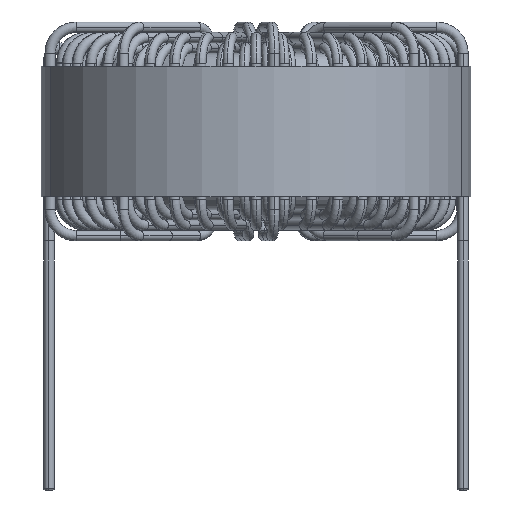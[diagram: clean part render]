
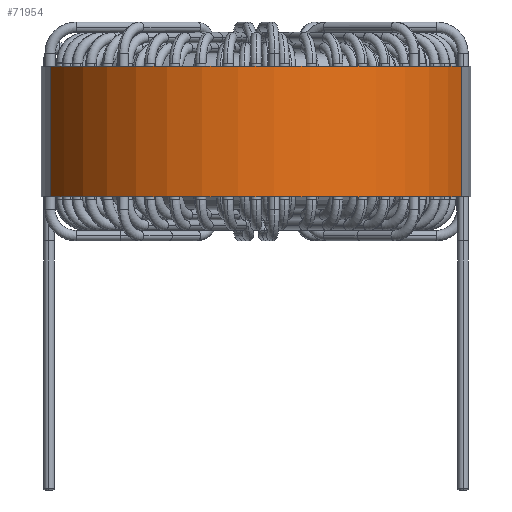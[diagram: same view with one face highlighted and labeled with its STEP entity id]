
A CAD part, front view. The second image highlights one B-rep face of the part: STEP entity #71954.
In plain terms, the highlighted cylindrical face has radius 16.45 mm (diameter 32.9 mm), a partial arc.
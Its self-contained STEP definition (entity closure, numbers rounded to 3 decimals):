
#2198 = ORIENTED_EDGE ( 'NONE', *, *, #70204, .F. ) ;
#6818 = AXIS2_PLACEMENT_3D ( 'NONE', #53440, #47550, #41092 ) ;
#8090 = VERTEX_POINT ( 'NONE', #35822 ) ;
#9342 = LINE ( 'NONE', #13408, #69402 ) ;
#11466 = ORIENTED_EDGE ( 'NONE', *, *, #31304, .F. ) ;
#12852 = DIRECTION ( 'NONE',  ( 0., 0., -1. ) ) ;
#13408 = CARTESIAN_POINT ( 'NONE',  ( 15.749, -4.751, 5. ) ) ;
#18495 = EDGE_CURVE ( 'NONE', #76778, #20364, #75982, .T. ) ;
#18912 = AXIS2_PLACEMENT_3D ( 'NONE', #25312, #63334, #51639 ) ;
#18958 = VERTEX_POINT ( 'NONE', #78938 ) ;
#20364 = VERTEX_POINT ( 'NONE', #67322 ) ;
#25312 = CARTESIAN_POINT ( 'NONE',  ( 0., 0., 5. ) ) ;
#26970 = VECTOR ( 'NONE', #30010, 1000. ) ;
#30010 = DIRECTION ( 'NONE',  ( 0., 0., -1. ) ) ;
#31304 = EDGE_CURVE ( 'NONE', #76778, #8090, #62259, .T. ) ;
#35301 = DIRECTION ( 'NONE',  ( 0., 0., 1. ) ) ;
#35822 = CARTESIAN_POINT ( 'NONE',  ( 15.749, -4.751, 5. ) ) ;
#40760 = AXIS2_PLACEMENT_3D ( 'NONE', #54060, #35301, #66387 ) ;
#41092 = DIRECTION ( 'NONE',  ( 1., 0., 0. ) ) ;
#41776 = ORIENTED_EDGE ( 'NONE', *, *, #18495, .T. ) ;
#44924 = EDGE_CURVE ( 'NONE', #20364, #18958, #60143, .T. ) ;
#45870 = ORIENTED_EDGE ( 'NONE', *, *, #44924, .T. ) ;
#47550 = DIRECTION ( 'NONE',  ( 0., 0., 1. ) ) ;
#51639 = DIRECTION ( 'NONE',  ( -1., 0., 0. ) ) ;
#53269 = FACE_OUTER_BOUND ( 'NONE', #71576, .T. ) ;
#53440 = CARTESIAN_POINT ( 'NONE',  ( 0., 0., 5. ) ) ;
#54060 = CARTESIAN_POINT ( 'NONE',  ( 0., 0., -5. ) ) ;
#60143 = CIRCLE ( 'NONE', #40760, 16.45 ) ;
#62259 = CIRCLE ( 'NONE', #6818, 16.45 ) ;
#63334 = DIRECTION ( 'NONE',  ( 0., 0., -1. ) ) ;
#66387 = DIRECTION ( 'NONE',  ( 1., 0., 0. ) ) ;
#67322 = CARTESIAN_POINT ( 'NONE',  ( -15.749, -4.751, -5. ) ) ;
#69402 = VECTOR ( 'NONE', #12852, 1000. ) ;
#70204 = EDGE_CURVE ( 'NONE', #8090, #18958, #9342, .T. ) ;
#71576 = EDGE_LOOP ( 'NONE', ( #45870, #2198, #11466, #41776 ) ) ;
#71954 = ADVANCED_FACE ( 'NONE', ( #53269 ), #75266, .T. ) ;
#73264 = CARTESIAN_POINT ( 'NONE',  ( -15.749, -4.751, 5. ) ) ;
#75266 = CYLINDRICAL_SURFACE ( 'NONE', #18912, 16.45 ) ;
#75322 = CARTESIAN_POINT ( 'NONE',  ( -15.749, -4.751, 5. ) ) ;
#75982 = LINE ( 'NONE', #75322, #26970 ) ;
#76778 = VERTEX_POINT ( 'NONE', #73264 ) ;
#78938 = CARTESIAN_POINT ( 'NONE',  ( 15.749, -4.751, -5. ) ) ;
